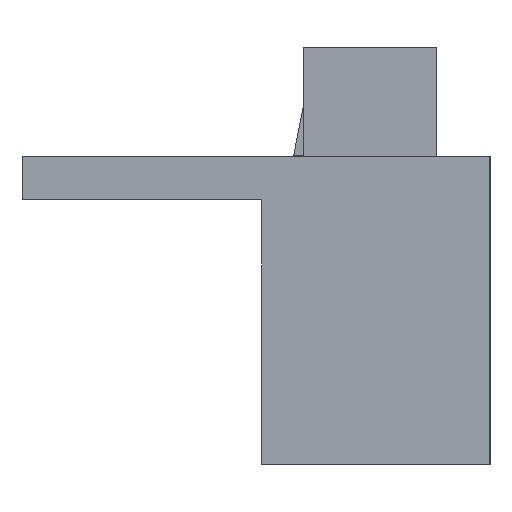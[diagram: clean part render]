
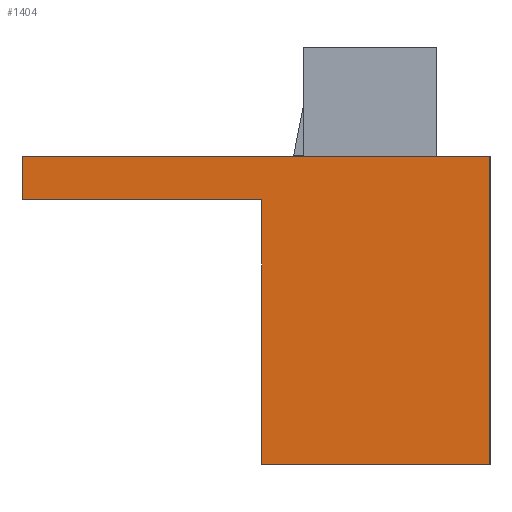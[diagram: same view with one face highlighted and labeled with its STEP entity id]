
A CAD part, left-side view. The second image highlights one B-rep face of the part: STEP entity #1404.
In plain terms, the highlighted planar face has unit normal (-1, 0, 0).
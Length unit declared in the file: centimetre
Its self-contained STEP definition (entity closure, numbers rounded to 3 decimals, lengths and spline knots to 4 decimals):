
#870=VERTEX_POINT('',#3484);
#871=VERTEX_POINT('',#3486);
#879=VERTEX_POINT('',#3504);
#880=VERTEX_POINT('',#3506);
#883=VERTEX_POINT('',#3515);
#887=VERTEX_POINT('',#3530);
#950=EDGE_CURVE('',#871,#870,#1951,.T.);
#959=EDGE_CURVE('',#880,#879,#1960,.T.);
#965=EDGE_CURVE('',#879,#883,#1966,.T.);
#974=EDGE_CURVE('',#870,#887,#1973,.T.);
#975=EDGE_CURVE('',#887,#880,#1974,.T.);
#976=EDGE_CURVE('',#871,#883,#1975,.T.);
#1105=ORIENTED_EDGE('',*,*,#975,.T.);
#1106=ORIENTED_EDGE('',*,*,#959,.T.);
#1107=ORIENTED_EDGE('',*,*,#965,.T.);
#1108=ORIENTED_EDGE('',*,*,#976,.F.);
#1109=ORIENTED_EDGE('',*,*,#950,.T.);
#1110=ORIENTED_EDGE('',*,*,#974,.T.);
#1297=EDGE_LOOP('',(#1105,#1106,#1107,#1108,#1109,#1110));
#1351=FACE_BOUND('',#1297,.T.);
#1404=ADVANCED_FACE('',(#1351),#2945,.T.);
#1951=LINE('',#3485,#2792);
#1960=LINE('',#3505,#2801);
#1966=LINE('',#3516,#2807);
#1973=LINE('',#3531,#2814);
#1974=LINE('',#3533,#2815);
#1975=LINE('',#3534,#2816);
#2645=AXIS2_PLACEMENT_3D('',#3532,#3949,$);
#2792=VECTOR('',#3919,1.);
#2801=VECTOR('',#3930,1.);
#2807=VECTOR('',#3937,1.);
#2814=VECTOR('',#3948,1.);
#2815=VECTOR('',#3950,1.);
#2816=VECTOR('',#3951,1.);
#2945=PLANE('',#2645);
#3484=CARTESIAN_POINT('',(-301.3865,195.8192,0.));
#3485=CARTESIAN_POINT('',(-301.3865,-129.5236,0.));
#3486=CARTESIAN_POINT('',(-301.3865,-129.5236,0.));
#3504=CARTESIAN_POINT('',(-301.3865,29.,-214.18));
#3505=CARTESIAN_POINT('',(-301.3865,29.,-30.));
#3506=CARTESIAN_POINT('',(-301.3865,29.,-30.));
#3515=CARTESIAN_POINT('',(-301.3865,-129.5236,-214.18));
#3516=CARTESIAN_POINT('',(-301.3865,-129.5236,-214.18));
#3530=CARTESIAN_POINT('',(-301.3865,195.8192,-30.));
#3531=CARTESIAN_POINT('',(-301.3865,195.8192,0.));
#3532=CARTESIAN_POINT('',(-301.3865,195.8192,0.));
#3533=CARTESIAN_POINT('',(-301.3865,-129.5236,-30.));
#3534=CARTESIAN_POINT('',(-301.3865,-129.5236,0.));
#3919=DIRECTION('',(0.,1.,0.));
#3930=DIRECTION('',(0.,0.,-1.));
#3937=DIRECTION('',(0.,-1.,0.));
#3948=DIRECTION('',(0.,0.,-1.));
#3949=DIRECTION('',(-1.,0.,0.));
#3950=DIRECTION('',(0.,-1.,0.));
#3951=DIRECTION('',(0.,0.,-1.));
